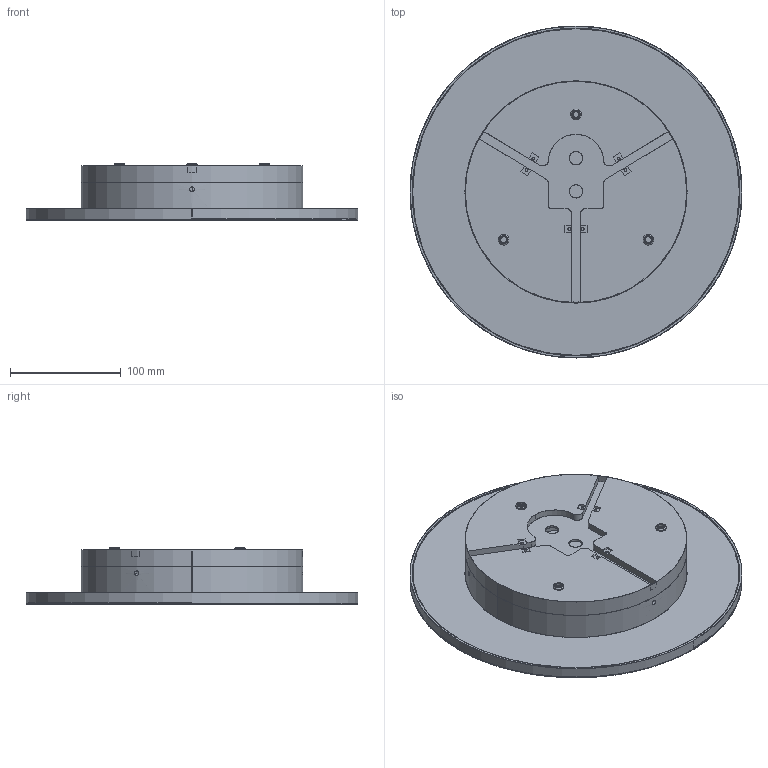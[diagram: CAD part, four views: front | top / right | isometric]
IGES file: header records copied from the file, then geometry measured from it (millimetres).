
Start section: SolidWorks IGES file using analytic representation for surfaces
Global section: file name: \\srvficheros\grupos\DISENYO\DESARROLLO DE PRODUCTO\_3D_WEB\COMBO-A39660-30\COMBO-A39661-30.IGS; native system: SolidWorks 2025; preprocessor: SolidWorks 2025; author: d.pons; date: 260113.093602; units: millimetre
Bounding box: 300 x 300 x 51 mm (x, y, z)
Surface area: 410885.6 mm2 (no closed solid volume)
Topology: 0 solids, 0 shells, 601 faces, 9636 edges, 9636 vertices
Faces by surface type: bspline 338, revolution 263
